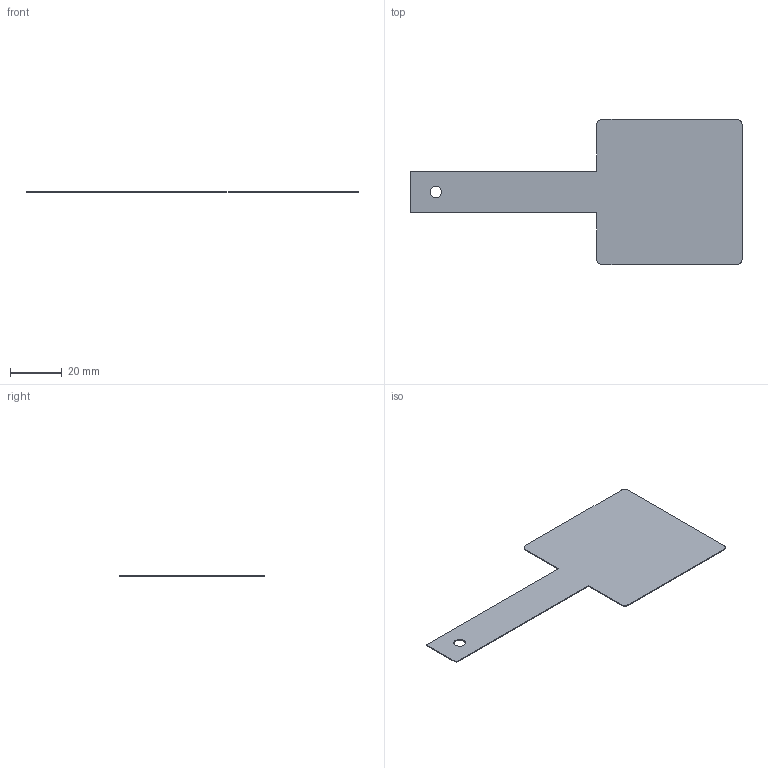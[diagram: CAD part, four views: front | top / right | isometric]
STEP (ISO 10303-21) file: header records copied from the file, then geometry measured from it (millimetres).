
FILE_DESCRIPTION(('FreeCAD Model'),'2;1');
FILE_NAME('Open CASCADE Shape Model','2026-10-30T14:44:37',('FreeCAD'),( 'FreeCAD'),'Open CASCADE STEP processor 7.8','FreeCAD','Unknown');
FILE_SCHEMA(('AUTOMOTIVE_DESIGN { 1 0 10303 214 1 1 1 1 }'));
Length unit declared in the file: millimetre
Products named in the file (1): Open CASCADE STEP translator 7.8 2
Bounding box: 128 x 56 x 0.35 mm (x, y, z)
Volume: 1494 mm3; surface area: 8669.9 mm2
Topology: 1 solids, 1 shells, 15 faces, 39 edges, 26 vertices
Faces by surface type: plane 10, cylinder 5
Full cylindrical faces by diameter (mm): 4.5 x1
Entity records: 477 total; most frequent: CARTESIAN_POINT 81, DIRECTION 81, ORIENTED_EDGE 78, EDGE_CURVE 39, LINE 29, VECTOR 29, AXIS2_PLACEMENT_3D 26, VERTEX_POINT 26
